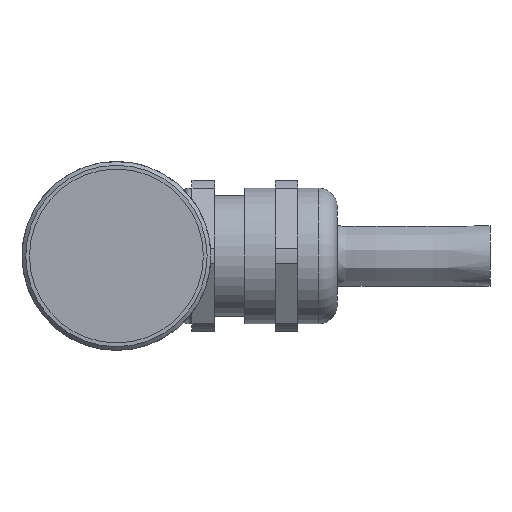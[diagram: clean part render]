
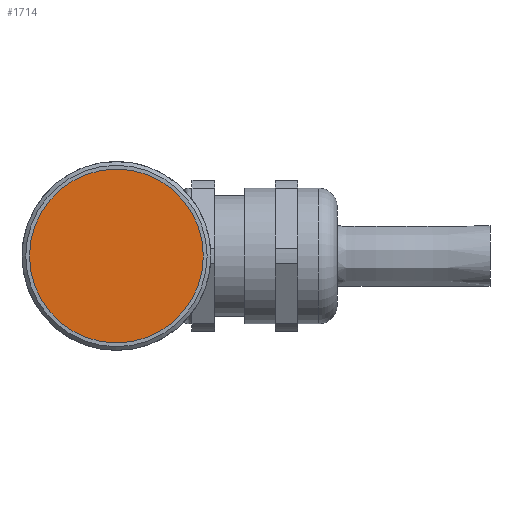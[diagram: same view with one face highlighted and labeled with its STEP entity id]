
A CAD part, left-side view. The second image highlights one B-rep face of the part: STEP entity #1714.
In plain terms, the highlighted planar face has unit normal (-1, 0, 0).
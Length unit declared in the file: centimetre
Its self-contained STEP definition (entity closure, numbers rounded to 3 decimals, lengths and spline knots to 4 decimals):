
#205=PLANE('',#1837);
#520=VERTEX_POINT('',#2020);
#674=CIRCLE('',#1836,1.15);
#741=EDGE_CURVE('',#520,#520,#674,.T.);
#993=ORIENTED_EDGE('',*,*,#741,.T.);
#1454=EDGE_LOOP('',(#993));
#1588=FACE_BOUND('',#1454,.T.);
#1714=ADVANCED_FACE('',(#1588),#205,.F.);
#1836=AXIS2_PLACEMENT_3D('',#2019,#2978,#2979);
#1837=AXIS2_PLACEMENT_3D('',#2021,#2980,$);
#2019=CARTESIAN_POINT('',(-3.5,0.,0.));
#2020=CARTESIAN_POINT('',(-3.5,0.,-1.15));
#2021=CARTESIAN_POINT('',(-3.5,0.,0.));
#2978=DIRECTION('',(-1.,0.,0.));
#2979=DIRECTION('',(0.,0.,-1.15));
#2980=DIRECTION('',(1.,0.,0.));
